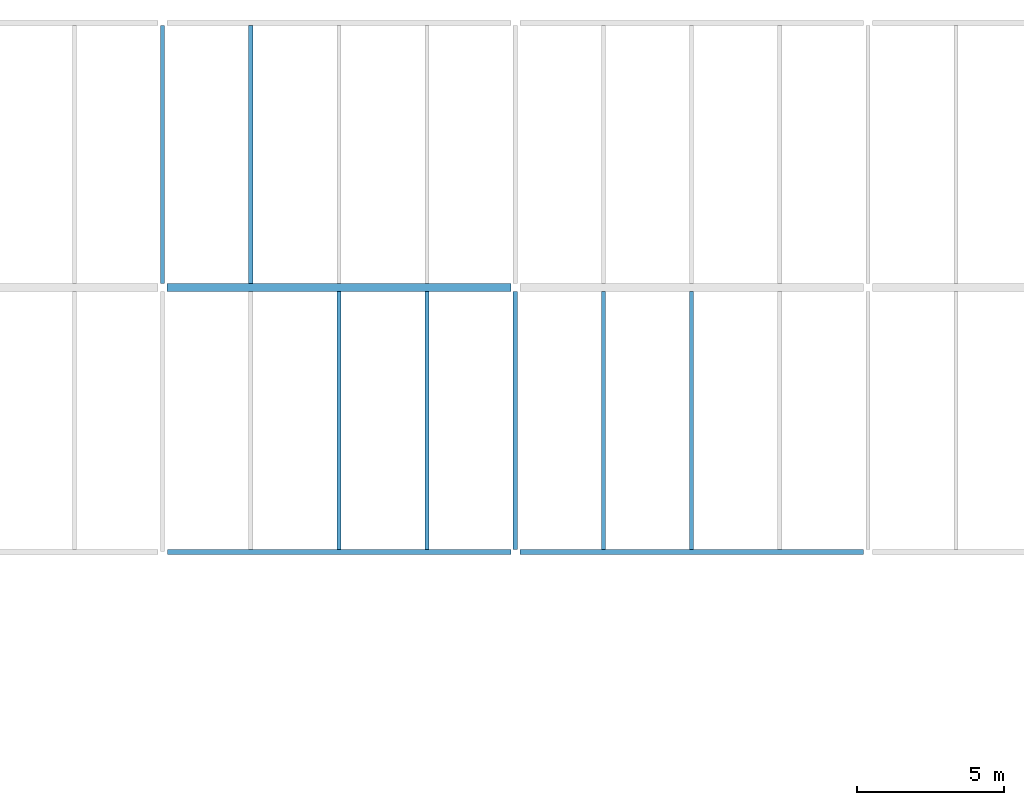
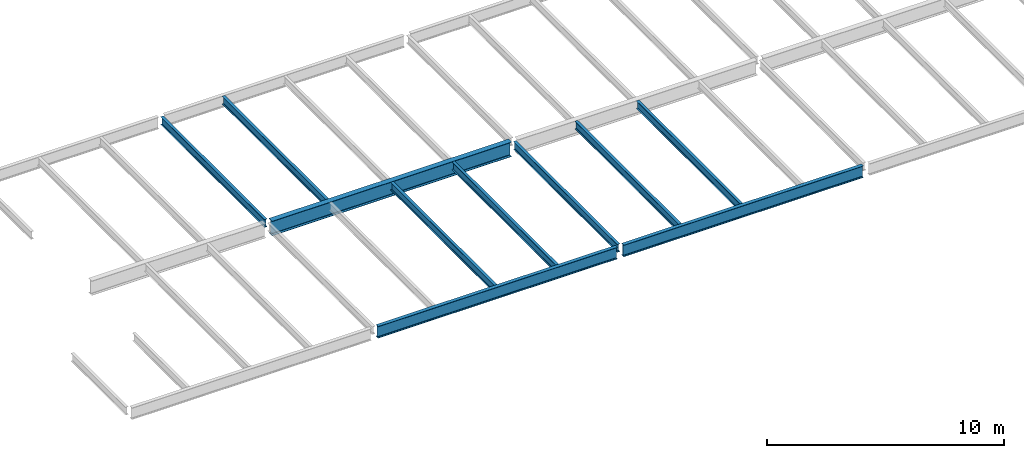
# One storey, part 3 of 21: 10 beams.
"""IFC2X3 building model written with IfcOpenShell, lengths in millimetres."""

from ifc_helpers import new_model, si_unit, origin, place, context, project, spatial, faceted_brep, material, element, save


model = new_model("IFC2X3")

# Units and contexts
context_of_model = context(None, 3, precision=1e-05, world=origin())
ifc_project = project(units=[si_unit("LENGTHUNIT", "METRE", prefix="MILLI")], contexts=[context_of_model])

# Building, storey
building = spatial("IfcBuilding", under=ifc_project, Name="Building", CompositionType="ELEMENT")
storey = spatial("IfcBuildingStorey", under=building, Name="FL6-FRM", CompositionType="ELEMENT")

# Beams
ifc_material_1 = material(Name="A992")
beam_1_placement = place(None, origin())
element("IfcBeam", 1, at=beam_1_placement, inside=storey, material=ifc_material_1, Name="Column436", context=context_of_model, shape_type="Brep", body=[
    faceted_brep([(-47846.0, 26867.5, 21620.0), (-47846.0, 27132.5, 21620.0), (-36154.0, 27132.5, 21620.0), (-36154.0, 26867.5, 21620.0), (-47846.0, 27132.5, 21637.0), (-36154.0, 27132.5, 21637.0), (-47846.0, 27023.1, 21637.0), (-36154.0, 27023.1, 21637.0), (-47846.0, 27018.8, 21637.6), (-36154.0, 27018.8, 21637.6), (-47846.0, 27014.8, 21639.2), (-36154.0, 27014.8, 21639.2), (-47846.0, 27011.4, 21641.8), (-36154.0, 27011.4, 21641.8), (-47846.0, 27008.8, 21645.2), (-36154.0, 27008.8, 21645.2), (-47846.0, 27007.2, 21649.2), (-36154.0, 27007.2, 21649.2), (-47846.0, 27006.6, 21653.5), (-36154.0, 27006.6, 21653.5), (-47846.0, 27006.6, 22339.5), (-36154.0, 27006.6, 22339.5), (-47846.0, 27007.2, 22343.8), (-36154.0, 27007.2, 22343.8), (-47846.0, 27008.8, 22347.8), (-36154.0, 27008.8, 22347.8), (-47846.0, 27011.4, 22351.2), (-36154.0, 27011.4, 22351.2), (-47846.0, 27014.8, 22353.8), (-36154.0, 27014.8, 22353.8), (-47846.0, 27018.8, 22355.4), (-36154.0, 27018.8, 22355.4), (-47846.0, 27023.1, 22356.0), (-36154.0, 27023.1, 22356.0), (-47846.0, 27132.5, 22356.0), (-36154.0, 27132.5, 22356.0), (-47846.0, 27132.5, 22373.0), (-36154.0, 27132.5, 22373.0), (-47846.0, 26867.5, 22373.0), (-36154.0, 26867.5, 22373.0), (-47846.0, 26867.5, 22356.0), (-36154.0, 26867.5, 22356.0), (-47846.0, 26976.9, 22356.0), (-36154.0, 26976.9, 22356.0), (-47846.0, 26981.2, 22355.4), (-36154.0, 26981.2, 22355.4), (-47846.0, 26985.2, 22353.8), (-36154.0, 26985.2, 22353.8), (-47846.0, 26988.6, 22351.2), (-36154.0, 26988.6, 22351.2), (-47846.0, 26991.2, 22347.8), (-36154.0, 26991.2, 22347.8), (-47846.0, 26992.8, 22343.8), (-36154.0, 26992.8, 22343.8), (-47846.0, 26993.4, 22339.5), (-36154.0, 26993.4, 22339.5), (-47846.0, 26993.4, 21653.5), (-36154.0, 26993.4, 21653.5), (-47846.0, 26992.8, 21649.2), (-36154.0, 26992.8, 21649.2), (-47846.0, 26991.2, 21645.3), (-36154.0, 26991.2, 21645.3), (-47846.0, 26988.6, 21641.8), (-36154.0, 26988.6, 21641.8), (-47846.0, 26985.2, 21639.2), (-36154.0, 26985.2, 21639.2), (-47846.0, 26981.2, 21637.6), (-36154.0, 26981.2, 21637.6), (-47846.0, 26976.9, 21637.0), (-36154.0, 26976.9, 21637.0), (-47846.0, 26867.5, 21637.0), (-36154.0, 26867.5, 21637.0)], [[[0, 1, 2, 3]], [[1, 4, 5, 2]], [[4, 6, 7, 5]], [[6, 8, 9, 7]], [[8, 10, 11, 9]], [[10, 12, 13, 11]], [[12, 14, 15, 13]], [[14, 16, 17, 15]], [[16, 18, 19, 17]], [[18, 20, 21, 19]], [[20, 22, 23, 21]], [[22, 24, 25, 23]], [[24, 26, 27, 25]], [[26, 28, 29, 27]], [[28, 30, 31, 29]], [[30, 32, 33, 31]], [[32, 34, 35, 33]], [[34, 36, 37, 35]], [[36, 38, 39, 37]], [[38, 40, 41, 39]], [[40, 42, 43, 41]], [[42, 44, 45, 43]], [[44, 46, 47, 45]], [[46, 48, 49, 47]], [[48, 50, 51, 49]], [[50, 52, 53, 51]], [[52, 54, 55, 53]], [[54, 56, 57, 55]], [[56, 58, 59, 57]], [[58, 60, 61, 59]], [[60, 62, 63, 61]], [[62, 64, 65, 63]], [[64, 66, 67, 65]], [[66, 68, 69, 67]], [[68, 70, 71, 69]], [[70, 0, 3, 71]], [[0, 70, 68, 66, 64, 62, 60, 58, 56, 54, 52, 50, 48, 46, 44, 42, 40, 38, 36, 34, 32, 30, 28, 26, 24, 22, 20, 18, 16, 14, 12, 10, 8, 6, 4, 1]], [[3, 2, 5, 7, 9, 11, 13, 15, 17, 19, 21, 23, 25, 27, 29, 31, 33, 35, 37, 39, 41, 43, 45, 47, 49, 51, 53, 55, 57, 59, 61, 63, 65, 67, 69, 71]]]),
])
ifc_material_2 = material(Name="A992")
beam_2_placement = place(None, origin())
element("IfcBeam", 2, at=beam_2_placement, inside=storey, material=ifc_material_2, Name="B353", context=context_of_model, shape_type="Brep", body=[
    faceted_brep([(-48070.0, 35910.5, 21970.0), (-47930.0, 35910.5, 21970.0), (-47930.0, 27132.5, 21970.0), (-48070.0, 27132.5, 21970.0), (-47930.0, 35910.5, 21981.2), (-47930.0, 27132.5, 21981.2), (-47986.3, 35910.5, 21981.2), (-47986.3, 27132.5, 21981.2), (-47988.9, 35910.5, 21981.5), (-47988.9, 27132.5, 21981.5), (-47991.4, 35910.5, 21982.6), (-47991.4, 27132.5, 21982.6), (-47993.5, 35910.5, 21984.2), (-47993.5, 27132.5, 21984.2), (-47995.1, 35910.5, 21986.3), (-47995.1, 27132.5, 21986.3), (-47996.2, 35910.5, 21988.8), (-47996.2, 27132.5, 21988.8), (-47996.5, 35910.5, 21991.4), (-47996.5, 27132.5, 21991.4), (-47996.5, 35910.5, 22351.6), (-47996.5, 27132.5, 22351.6), (-47996.2, 35910.5, 22354.2), (-47996.2, 27132.5, 22354.2), (-47995.1, 35910.5, 22356.7), (-47995.1, 27132.5, 22356.7), (-47993.5, 35910.5, 22358.8), (-47993.5, 27132.5, 22358.8), (-47991.4, 35910.5, 22360.4), (-47991.4, 27132.5, 22360.4), (-47988.9, 35910.5, 22361.5), (-47988.9, 27132.5, 22361.5), (-47986.3, 35910.5, 22361.8), (-47986.3, 27132.5, 22361.8), (-47930.0, 35910.5, 22361.8), (-47930.0, 27132.5, 22361.8), (-47930.0, 35910.5, 22373.0), (-47930.0, 27132.5, 22373.0), (-48070.0, 35910.5, 22373.0), (-48070.0, 27132.5, 22373.0), (-48070.0, 35910.5, 22361.8), (-48070.0, 27132.5, 22361.8), (-48013.7, 35910.5, 22361.8), (-48013.7, 27132.5, 22361.8), (-48011.1, 35910.5, 22361.5), (-48011.1, 27132.5, 22361.5), (-48008.6, 35910.5, 22360.4), (-48008.6, 27132.5, 22360.4), (-48006.5, 35910.5, 22358.8), (-48006.5, 27132.5, 22358.8), (-48004.9, 35910.5, 22356.7), (-48004.9, 27132.5, 22356.7), (-48003.8, 35910.5, 22354.2), (-48003.8, 27132.5, 22354.2), (-48003.5, 35910.5, 22351.6), (-48003.5, 27132.5, 22351.6), (-48003.5, 35910.5, 21991.4), (-48003.5, 27132.5, 21991.4), (-48003.8, 35910.5, 21988.8), (-48003.8, 27132.5, 21988.8), (-48004.9, 35910.5, 21986.3), (-48004.9, 27132.5, 21986.3), (-48006.5, 35910.5, 21984.2), (-48006.5, 27132.5, 21984.2), (-48008.6, 35910.5, 21982.6), (-48008.6, 27132.5, 21982.6), (-48011.1, 35910.5, 21981.5), (-48011.1, 27132.5, 21981.5), (-48013.7, 35910.5, 21981.2), (-48013.7, 27132.5, 21981.2), (-48070.0, 35910.5, 21981.2), (-48070.0, 27132.5, 21981.2)], [[[0, 1, 2, 3]], [[1, 4, 5, 2]], [[4, 6, 7, 5]], [[6, 8, 9, 7]], [[8, 10, 11, 9]], [[10, 12, 13, 11]], [[12, 14, 15, 13]], [[14, 16, 17, 15]], [[16, 18, 19, 17]], [[18, 20, 21, 19]], [[20, 22, 23, 21]], [[22, 24, 25, 23]], [[24, 26, 27, 25]], [[26, 28, 29, 27]], [[28, 30, 31, 29]], [[30, 32, 33, 31]], [[32, 34, 35, 33]], [[34, 36, 37, 35]], [[36, 38, 39, 37]], [[38, 40, 41, 39]], [[40, 42, 43, 41]], [[42, 44, 45, 43]], [[44, 46, 47, 45]], [[46, 48, 49, 47]], [[48, 50, 51, 49]], [[50, 52, 53, 51]], [[52, 54, 55, 53]], [[54, 56, 57, 55]], [[56, 58, 59, 57]], [[58, 60, 61, 59]], [[60, 62, 63, 61]], [[62, 64, 65, 63]], [[64, 66, 67, 65]], [[66, 68, 69, 67]], [[68, 70, 71, 69]], [[70, 0, 3, 71]], [[0, 70, 68, 66, 64, 62, 60, 58, 56, 54, 52, 50, 48, 46, 44, 42, 40, 38, 36, 34, 32, 30, 28, 26, 24, 22, 20, 18, 16, 14, 12, 10, 8, 6, 4, 1]], [[3, 2, 5, 7, 9, 11, 13, 15, 17, 19, 21, 23, 25, 27, 29, 31, 33, 35, 37, 39, 41, 43, 45, 47, 49, 51, 53, 55, 57, 59, 61, 63, 65, 67, 69, 71]]]),
])
ifc_material_3 = material(Name="A992")
beam_3_placement = place(None, origin())
element("IfcBeam", 3, at=beam_3_placement, inside=storey, material=ifc_material_3, Name="B354", context=context_of_model, shape_type="Brep", body=[
    faceted_brep([(-45070.0, 35910.5, 21970.0), (-44930.0, 35910.5, 21970.0), (-44930.0, 27132.5, 21970.0), (-45070.0, 27132.5, 21970.0), (-44930.0, 35910.5, 21981.2), (-44930.0, 27132.5, 21981.2), (-44986.3, 35910.5, 21981.2), (-44986.3, 27132.5, 21981.2), (-44988.9, 35910.5, 21981.5), (-44988.9, 27132.5, 21981.5), (-44991.4, 35910.5, 21982.6), (-44991.4, 27132.5, 21982.6), (-44993.5, 35910.5, 21984.2), (-44993.5, 27132.5, 21984.2), (-44995.1, 35910.5, 21986.3), (-44995.1, 27132.5, 21986.3), (-44996.2, 35910.5, 21988.8), (-44996.2, 27132.5, 21988.8), (-44996.5, 35910.5, 21991.4), (-44996.5, 27132.5, 21991.4), (-44996.5, 35910.5, 22351.6), (-44996.5, 27132.5, 22351.6), (-44996.2, 35910.5, 22354.2), (-44996.2, 27132.5, 22354.2), (-44995.1, 35910.5, 22356.7), (-44995.1, 27132.5, 22356.7), (-44993.5, 35910.5, 22358.8), (-44993.5, 27132.5, 22358.8), (-44991.4, 35910.5, 22360.4), (-44991.4, 27132.5, 22360.4), (-44988.9, 35910.5, 22361.5), (-44988.9, 27132.5, 22361.5), (-44986.3, 35910.5, 22361.8), (-44986.3, 27132.5, 22361.8), (-44930.0, 35910.5, 22361.8), (-44930.0, 27132.5, 22361.8), (-44930.0, 35910.5, 22373.0), (-44930.0, 27132.5, 22373.0), (-45070.0, 35910.5, 22373.0), (-45070.0, 27132.5, 22373.0), (-45070.0, 35910.5, 22361.8), (-45070.0, 27132.5, 22361.8), (-45013.7, 35910.5, 22361.8), (-45013.7, 27132.5, 22361.8), (-45011.1, 35910.5, 22361.5), (-45011.1, 27132.5, 22361.5), (-45008.6, 35910.5, 22360.4), (-45008.6, 27132.5, 22360.4), (-45006.5, 35910.5, 22358.8), (-45006.5, 27132.5, 22358.8), (-45004.9, 35910.5, 22356.7), (-45004.9, 27132.5, 22356.7), (-45003.8, 35910.5, 22354.2), (-45003.8, 27132.5, 22354.2), (-45003.5, 35910.5, 22351.6), (-45003.5, 27132.5, 22351.6), (-45003.5, 35910.5, 21991.4), (-45003.5, 27132.5, 21991.4), (-45003.8, 35910.5, 21988.8), (-45003.8, 27132.5, 21988.8), (-45004.9, 35910.5, 21986.3), (-45004.9, 27132.5, 21986.3), (-45006.5, 35910.5, 21984.2), (-45006.5, 27132.5, 21984.2), (-45008.6, 35910.5, 21982.6), (-45008.6, 27132.5, 21982.6), (-45011.1, 35910.5, 21981.5), (-45011.1, 27132.5, 21981.5), (-45013.7, 35910.5, 21981.2), (-45013.7, 27132.5, 21981.2), (-45070.0, 35910.5, 21981.2), (-45070.0, 27132.5, 21981.2)], [[[0, 1, 2, 3]], [[1, 4, 5, 2]], [[4, 6, 7, 5]], [[6, 8, 9, 7]], [[8, 10, 11, 9]], [[10, 12, 13, 11]], [[12, 14, 15, 13]], [[14, 16, 17, 15]], [[16, 18, 19, 17]], [[18, 20, 21, 19]], [[20, 22, 23, 21]], [[22, 24, 25, 23]], [[24, 26, 27, 25]], [[26, 28, 29, 27]], [[28, 30, 31, 29]], [[30, 32, 33, 31]], [[32, 34, 35, 33]], [[34, 36, 37, 35]], [[36, 38, 39, 37]], [[38, 40, 41, 39]], [[40, 42, 43, 41]], [[42, 44, 45, 43]], [[44, 46, 47, 45]], [[46, 48, 49, 47]], [[48, 50, 51, 49]], [[50, 52, 53, 51]], [[52, 54, 55, 53]], [[54, 56, 57, 55]], [[56, 58, 59, 57]], [[58, 60, 61, 59]], [[60, 62, 63, 61]], [[62, 64, 65, 63]], [[64, 66, 67, 65]], [[66, 68, 69, 67]], [[68, 70, 71, 69]], [[70, 0, 3, 71]], [[0, 70, 68, 66, 64, 62, 60, 58, 56, 54, 52, 50, 48, 46, 44, 42, 40, 38, 36, 34, 32, 30, 28, 26, 24, 22, 20, 18, 16, 14, 12, 10, 8, 6, 4, 1]], [[3, 2, 5, 7, 9, 11, 13, 15, 17, 19, 21, 23, 25, 27, 29, 31, 33, 35, 37, 39, 41, 43, 45, 47, 49, 51, 53, 55, 57, 59, 61, 63, 65, 67, 69, 71]]]),
])
ifc_material_4 = material(Name="A992")
beam_4_placement = place(None, origin())
element("IfcBeam", 4, at=beam_4_placement, inside=storey, material=ifc_material_4, Name="Column447", context=context_of_model, shape_type="Brep", body=[
    faceted_brep([(-47837.0, 17910.5, 21770.0), (-47837.0, 18089.5, 21770.0), (-36153.0, 18089.5, 21770.0), (-36153.0, 17910.5, 21770.0), (-47837.0, 18089.5, 21785.0), (-36153.0, 18089.5, 21785.0), (-47837.0, 18020.6, 21785.0), (-36153.0, 18020.6, 21785.0), (-47837.0, 18016.7, 21785.5), (-36153.0, 18016.7, 21785.5), (-47837.0, 18013.0, 21787.0), (-36153.0, 18013.0, 21787.0), (-47837.0, 18009.9, 21789.5), (-36153.0, 18009.9, 21789.5), (-47837.0, 18007.5, 21792.6), (-36153.0, 18007.5, 21792.6), (-47837.0, 18006.0, 21796.3), (-36153.0, 18006.0, 21796.3), (-47837.0, 18005.4, 21800.2), (-36153.0, 18005.4, 21800.2), (-47837.0, 18005.4, 22342.8), (-36153.0, 18005.4, 22342.8), (-47837.0, 18006.0, 22346.7), (-36153.0, 18006.0, 22346.7), (-47837.0, 18007.5, 22350.4), (-36153.0, 18007.5, 22350.4), (-47837.0, 18009.9, 22353.5), (-36153.0, 18009.9, 22353.5), (-47837.0, 18013.0, 22356.0), (-36153.0, 18013.0, 22356.0), (-47837.0, 18016.7, 22357.5), (-36153.0, 18016.7, 22357.5), (-47837.0, 18020.6, 22358.0), (-36153.0, 18020.6, 22358.0), (-47837.0, 18089.5, 22358.0), (-36153.0, 18089.5, 22358.0), (-47837.0, 18089.5, 22373.0), (-36153.0, 18089.5, 22373.0), (-47837.0, 17910.5, 22373.0), (-36153.0, 17910.5, 22373.0), (-47837.0, 17910.5, 22358.0), (-36153.0, 17910.5, 22358.0), (-47837.0, 17979.4, 22358.0), (-36153.0, 17979.4, 22358.0), (-47837.0, 17983.3, 22357.5), (-36153.0, 17983.3, 22357.5), (-47837.0, 17987.0, 22356.0), (-36153.0, 17987.0, 22356.0), (-47837.0, 17990.1, 22353.5), (-36153.0, 17990.1, 22353.5), (-47837.0, 17992.5, 22350.4), (-36153.0, 17992.5, 22350.4), (-47837.0, 17994.0, 22346.7), (-36153.0, 17994.0, 22346.7), (-47837.0, 17994.6, 22342.8), (-36153.0, 17994.6, 22342.8), (-47837.0, 17994.6, 21800.2), (-36153.0, 17994.6, 21800.2), (-47837.0, 17994.0, 21796.3), (-36153.0, 17994.0, 21796.3), (-47837.0, 17992.5, 21792.6), (-36153.0, 17992.5, 21792.6), (-47837.0, 17990.1, 21789.5), (-36153.0, 17990.1, 21789.5), (-47837.0, 17987.0, 21787.0), (-36153.0, 17987.0, 21787.0), (-47837.0, 17983.3, 21785.5), (-36153.0, 17983.3, 21785.5), (-47837.0, 17979.4, 21785.0), (-36153.0, 17979.4, 21785.0), (-47837.0, 17910.5, 21785.0), (-36153.0, 17910.5, 21785.0)], [[[0, 1, 2, 3]], [[1, 4, 5, 2]], [[4, 6, 7, 5]], [[6, 8, 9, 7]], [[8, 10, 11, 9]], [[10, 12, 13, 11]], [[12, 14, 15, 13]], [[14, 16, 17, 15]], [[16, 18, 19, 17]], [[18, 20, 21, 19]], [[20, 22, 23, 21]], [[22, 24, 25, 23]], [[24, 26, 27, 25]], [[26, 28, 29, 27]], [[28, 30, 31, 29]], [[30, 32, 33, 31]], [[32, 34, 35, 33]], [[34, 36, 37, 35]], [[36, 38, 39, 37]], [[38, 40, 41, 39]], [[40, 42, 43, 41]], [[42, 44, 45, 43]], [[44, 46, 47, 45]], [[46, 48, 49, 47]], [[48, 50, 51, 49]], [[50, 52, 53, 51]], [[52, 54, 55, 53]], [[54, 56, 57, 55]], [[56, 58, 59, 57]], [[58, 60, 61, 59]], [[60, 62, 63, 61]], [[62, 64, 65, 63]], [[64, 66, 67, 65]], [[66, 68, 69, 67]], [[68, 70, 71, 69]], [[70, 0, 3, 71]], [[0, 70, 68, 66, 64, 62, 60, 58, 56, 54, 52, 50, 48, 46, 44, 42, 40, 38, 36, 34, 32, 30, 28, 26, 24, 22, 20, 18, 16, 14, 12, 10, 8, 6, 4, 1]], [[3, 2, 5, 7, 9, 11, 13, 15, 17, 19, 21, 23, 25, 27, 29, 31, 33, 35, 37, 39, 41, 43, 45, 47, 49, 51, 53, 55, 57, 59, 61, 63, 65, 67, 69, 71]]]),
])
ifc_material_5 = material(Name="A992")
beam_5_placement = place(None, origin())
element("IfcBeam", 5, at=beam_5_placement, inside=storey, material=ifc_material_5, Name="Column448", context=context_of_model, shape_type="Brep", body=[
    faceted_brep([(-35847.0, 17910.5, 21770.0), (-35847.0, 18089.5, 21770.0), (-24153.0, 18089.5, 21770.0), (-24153.0, 17910.5, 21770.0), (-35847.0, 18089.5, 21785.0), (-24153.0, 18089.5, 21785.0), (-35847.0, 18020.6, 21785.0), (-24153.0, 18020.6, 21785.0), (-35847.0, 18016.7, 21785.5), (-24153.0, 18016.7, 21785.5), (-35847.0, 18013.0, 21787.0), (-24153.0, 18013.0, 21787.0), (-35847.0, 18009.9, 21789.5), (-24153.0, 18009.9, 21789.5), (-35847.0, 18007.5, 21792.6), (-24153.0, 18007.5, 21792.6), (-35847.0, 18006.0, 21796.3), (-24153.0, 18006.0, 21796.3), (-35847.0, 18005.4, 21800.2), (-24153.0, 18005.4, 21800.2), (-35847.0, 18005.4, 22342.8), (-24153.0, 18005.4, 22342.8), (-35847.0, 18006.0, 22346.7), (-24153.0, 18006.0, 22346.7), (-35847.0, 18007.5, 22350.4), (-24153.0, 18007.5, 22350.4), (-35847.0, 18009.9, 22353.5), (-24153.0, 18009.9, 22353.5), (-35847.0, 18013.0, 22356.0), (-24153.0, 18013.0, 22356.0), (-35847.0, 18016.7, 22357.5), (-24153.0, 18016.7, 22357.5), (-35847.0, 18020.6, 22358.0), (-24153.0, 18020.6, 22358.0), (-35847.0, 18089.5, 22358.0), (-24153.0, 18089.5, 22358.0), (-35847.0, 18089.5, 22373.0), (-24153.0, 18089.5, 22373.0), (-35847.0, 17910.5, 22373.0), (-24153.0, 17910.5, 22373.0), (-35847.0, 17910.5, 22358.0), (-24153.0, 17910.5, 22358.0), (-35847.0, 17979.4, 22358.0), (-24153.0, 17979.4, 22358.0), (-35847.0, 17983.3, 22357.5), (-24153.0, 17983.3, 22357.5), (-35847.0, 17987.0, 22356.0), (-24153.0, 17987.0, 22356.0), (-35847.0, 17990.1, 22353.5), (-24153.0, 17990.1, 22353.5), (-35847.0, 17992.5, 22350.4), (-24153.0, 17992.5, 22350.4), (-35847.0, 17994.0, 22346.7), (-24153.0, 17994.0, 22346.7), (-35847.0, 17994.6, 22342.8), (-24153.0, 17994.6, 22342.8), (-35847.0, 17994.6, 21800.2), (-24153.0, 17994.6, 21800.2), (-35847.0, 17994.0, 21796.3), (-24153.0, 17994.0, 21796.3), (-35847.0, 17992.5, 21792.6), (-24153.0, 17992.5, 21792.6), (-35847.0, 17990.1, 21789.5), (-24153.0, 17990.1, 21789.5), (-35847.0, 17987.0, 21787.0), (-24153.0, 17987.0, 21787.0), (-35847.0, 17983.3, 21785.5), (-24153.0, 17983.3, 21785.5), (-35847.0, 17979.4, 21785.0), (-24153.0, 17979.4, 21785.0), (-35847.0, 17910.5, 21785.0), (-24153.0, 17910.5, 21785.0)], [[[0, 1, 2, 3]], [[1, 4, 5, 2]], [[4, 6, 7, 5]], [[6, 8, 9, 7]], [[8, 10, 11, 9]], [[10, 12, 13, 11]], [[12, 14, 15, 13]], [[14, 16, 17, 15]], [[16, 18, 19, 17]], [[18, 20, 21, 19]], [[20, 22, 23, 21]], [[22, 24, 25, 23]], [[24, 26, 27, 25]], [[26, 28, 29, 27]], [[28, 30, 31, 29]], [[30, 32, 33, 31]], [[32, 34, 35, 33]], [[34, 36, 37, 35]], [[36, 38, 39, 37]], [[38, 40, 41, 39]], [[40, 42, 43, 41]], [[42, 44, 45, 43]], [[44, 46, 47, 45]], [[46, 48, 49, 47]], [[48, 50, 51, 49]], [[50, 52, 53, 51]], [[52, 54, 55, 53]], [[54, 56, 57, 55]], [[56, 58, 59, 57]], [[58, 60, 61, 59]], [[60, 62, 63, 61]], [[62, 64, 65, 63]], [[64, 66, 67, 65]], [[66, 68, 69, 67]], [[68, 70, 71, 69]], [[70, 0, 3, 71]], [[0, 70, 68, 66, 64, 62, 60, 58, 56, 54, 52, 50, 48, 46, 44, 42, 40, 38, 36, 34, 32, 30, 28, 26, 24, 22, 20, 18, 16, 14, 12, 10, 8, 6, 4, 1]], [[3, 2, 5, 7, 9, 11, 13, 15, 17, 19, 21, 23, 25, 27, 29, 31, 33, 35, 37, 39, 41, 43, 45, 47, 49, 51, 53, 55, 57, 59, 61, 63, 65, 67, 69, 71]]]),
])
ifc_material_6 = material(Name="A992")
beam_6_placement = place(None, origin())
element("IfcBeam", 6, at=beam_6_placement, inside=storey, material=ifc_material_6, Name="B388", context=context_of_model, shape_type="Brep", body=[
    faceted_brep([(-41930.0, 18089.5, 21970.0), (-42070.0, 18089.5, 21970.0), (-42070.0, 26867.5, 21970.0), (-41930.0, 26867.5, 21970.0), (-42070.0, 18089.5, 21981.2), (-42070.0, 26867.5, 21981.2), (-42013.7, 18089.5, 21981.2), (-42013.7, 26867.5, 21981.2), (-42011.1, 18089.5, 21981.5), (-42011.1, 26867.5, 21981.5), (-42008.6, 18089.5, 21982.6), (-42008.6, 26867.5, 21982.6), (-42006.5, 18089.5, 21984.2), (-42006.5, 26867.5, 21984.2), (-42004.9, 18089.5, 21986.3), (-42004.9, 26867.5, 21986.3), (-42003.8, 18089.5, 21988.8), (-42003.8, 26867.5, 21988.8), (-42003.5, 18089.5, 21991.4), (-42003.5, 26867.5, 21991.4), (-42003.5, 18089.5, 22351.6), (-42003.5, 26867.5, 22351.6), (-42003.8, 18089.5, 22354.2), (-42003.8, 26867.5, 22354.2), (-42004.9, 18089.5, 22356.7), (-42004.9, 26867.5, 22356.7), (-42006.5, 18089.5, 22358.8), (-42006.5, 26867.5, 22358.8), (-42008.6, 18089.5, 22360.4), (-42008.6, 26867.5, 22360.4), (-42011.1, 18089.5, 22361.5), (-42011.1, 26867.5, 22361.5), (-42013.7, 18089.5, 22361.8), (-42013.7, 26867.5, 22361.8), (-42070.0, 18089.5, 22361.8), (-42070.0, 26867.5, 22361.8), (-42070.0, 18089.5, 22373.0), (-42070.0, 26867.5, 22373.0), (-41930.0, 18089.5, 22373.0), (-41930.0, 26867.5, 22373.0), (-41930.0, 18089.5, 22361.8), (-41930.0, 26867.5, 22361.8), (-41986.3, 18089.5, 22361.8), (-41986.3, 26867.5, 22361.8), (-41988.9, 18089.5, 22361.5), (-41988.9, 26867.5, 22361.5), (-41991.4, 18089.5, 22360.4), (-41991.4, 26867.5, 22360.4), (-41993.5, 18089.5, 22358.8), (-41993.5, 26867.5, 22358.8), (-41995.1, 18089.5, 22356.7), (-41995.1, 26867.5, 22356.7), (-41996.2, 18089.5, 22354.2), (-41996.2, 26867.5, 22354.2), (-41996.5, 18089.5, 22351.6), (-41996.5, 26867.5, 22351.6), (-41996.5, 18089.5, 21991.4), (-41996.5, 26867.5, 21991.4), (-41996.2, 18089.5, 21988.8), (-41996.2, 26867.5, 21988.8), (-41995.1, 18089.5, 21986.3), (-41995.1, 26867.5, 21986.3), (-41993.5, 18089.5, 21984.2), (-41993.5, 26867.5, 21984.2), (-41991.4, 18089.5, 21982.6), (-41991.4, 26867.5, 21982.6), (-41988.9, 18089.5, 21981.5), (-41988.9, 26867.5, 21981.5), (-41986.3, 18089.5, 21981.2), (-41986.3, 26867.5, 21981.2), (-41930.0, 18089.5, 21981.2), (-41930.0, 26867.5, 21981.2)], [[[0, 1, 2, 3]], [[1, 4, 5, 2]], [[4, 6, 7, 5]], [[6, 8, 9, 7]], [[8, 10, 11, 9]], [[10, 12, 13, 11]], [[12, 14, 15, 13]], [[14, 16, 17, 15]], [[16, 18, 19, 17]], [[18, 20, 21, 19]], [[20, 22, 23, 21]], [[22, 24, 25, 23]], [[24, 26, 27, 25]], [[26, 28, 29, 27]], [[28, 30, 31, 29]], [[30, 32, 33, 31]], [[32, 34, 35, 33]], [[34, 36, 37, 35]], [[36, 38, 39, 37]], [[38, 40, 41, 39]], [[40, 42, 43, 41]], [[42, 44, 45, 43]], [[44, 46, 47, 45]], [[46, 48, 49, 47]], [[48, 50, 51, 49]], [[50, 52, 53, 51]], [[52, 54, 55, 53]], [[54, 56, 57, 55]], [[56, 58, 59, 57]], [[58, 60, 61, 59]], [[60, 62, 63, 61]], [[62, 64, 65, 63]], [[64, 66, 67, 65]], [[66, 68, 69, 67]], [[68, 70, 71, 69]], [[70, 0, 3, 71]], [[0, 70, 68, 66, 64, 62, 60, 58, 56, 54, 52, 50, 48, 46, 44, 42, 40, 38, 36, 34, 32, 30, 28, 26, 24, 22, 20, 18, 16, 14, 12, 10, 8, 6, 4, 1]], [[3, 2, 5, 7, 9, 11, 13, 15, 17, 19, 21, 23, 25, 27, 29, 31, 33, 35, 37, 39, 41, 43, 45, 47, 49, 51, 53, 55, 57, 59, 61, 63, 65, 67, 69, 71]]]),
])
ifc_material_7 = material(Name="A992")
beam_7_placement = place(None, origin())
element("IfcBeam", 7, at=beam_7_placement, inside=storey, material=ifc_material_7, Name="B389", context=context_of_model, shape_type="Brep", body=[
    faceted_brep([(-38930.0, 18089.5, 21970.0), (-39070.0, 18089.5, 21970.0), (-39070.0, 26867.5, 21970.0), (-38930.0, 26867.5, 21970.0), (-39070.0, 18089.5, 21981.2), (-39070.0, 26867.5, 21981.2), (-39013.7, 18089.5, 21981.2), (-39013.7, 26867.5, 21981.2), (-39011.1, 18089.5, 21981.5), (-39011.1, 26867.5, 21981.5), (-39008.6, 18089.5, 21982.6), (-39008.6, 26867.5, 21982.6), (-39006.5, 18089.5, 21984.2), (-39006.5, 26867.5, 21984.2), (-39004.9, 18089.5, 21986.3), (-39004.9, 26867.5, 21986.3), (-39003.8, 18089.5, 21988.8), (-39003.8, 26867.5, 21988.8), (-39003.5, 18089.5, 21991.4), (-39003.5, 26867.5, 21991.4), (-39003.5, 18089.5, 22351.6), (-39003.5, 26867.5, 22351.6), (-39003.8, 18089.5, 22354.2), (-39003.8, 26867.5, 22354.2), (-39004.9, 18089.5, 22356.7), (-39004.9, 26867.5, 22356.7), (-39006.5, 18089.5, 22358.8), (-39006.5, 26867.5, 22358.8), (-39008.6, 18089.5, 22360.4), (-39008.6, 26867.5, 22360.4), (-39011.1, 18089.5, 22361.5), (-39011.1, 26867.5, 22361.5), (-39013.7, 18089.5, 22361.8), (-39013.7, 26867.5, 22361.8), (-39070.0, 18089.5, 22361.8), (-39070.0, 26867.5, 22361.8), (-39070.0, 18089.5, 22373.0), (-39070.0, 26867.5, 22373.0), (-38930.0, 18089.5, 22373.0), (-38930.0, 26867.5, 22373.0), (-38930.0, 18089.5, 22361.8), (-38930.0, 26867.5, 22361.8), (-38986.3, 18089.5, 22361.8), (-38986.3, 26867.5, 22361.8), (-38988.9, 18089.5, 22361.5), (-38988.9, 26867.5, 22361.5), (-38991.4, 18089.5, 22360.4), (-38991.4, 26867.5, 22360.4), (-38993.5, 18089.5, 22358.8), (-38993.5, 26867.5, 22358.8), (-38995.1, 18089.5, 22356.7), (-38995.1, 26867.5, 22356.7), (-38996.2, 18089.5, 22354.2), (-38996.2, 26867.5, 22354.2), (-38996.5, 18089.5, 22351.6), (-38996.5, 26867.5, 22351.6), (-38996.5, 18089.5, 21991.4), (-38996.5, 26867.5, 21991.4), (-38996.2, 18089.5, 21988.8), (-38996.2, 26867.5, 21988.8), (-38995.1, 18089.5, 21986.3), (-38995.1, 26867.5, 21986.3), (-38993.5, 18089.5, 21984.2), (-38993.5, 26867.5, 21984.2), (-38991.4, 18089.5, 21982.6), (-38991.4, 26867.5, 21982.6), (-38988.9, 18089.5, 21981.5), (-38988.9, 26867.5, 21981.5), (-38986.3, 18089.5, 21981.2), (-38986.3, 26867.5, 21981.2), (-38930.0, 18089.5, 21981.2), (-38930.0, 26867.5, 21981.2)], [[[0, 1, 2, 3]], [[1, 4, 5, 2]], [[4, 6, 7, 5]], [[6, 8, 9, 7]], [[8, 10, 11, 9]], [[10, 12, 13, 11]], [[12, 14, 15, 13]], [[14, 16, 17, 15]], [[16, 18, 19, 17]], [[18, 20, 21, 19]], [[20, 22, 23, 21]], [[22, 24, 25, 23]], [[24, 26, 27, 25]], [[26, 28, 29, 27]], [[28, 30, 31, 29]], [[30, 32, 33, 31]], [[32, 34, 35, 33]], [[34, 36, 37, 35]], [[36, 38, 39, 37]], [[38, 40, 41, 39]], [[40, 42, 43, 41]], [[42, 44, 45, 43]], [[44, 46, 47, 45]], [[46, 48, 49, 47]], [[48, 50, 51, 49]], [[50, 52, 53, 51]], [[52, 54, 55, 53]], [[54, 56, 57, 55]], [[56, 58, 59, 57]], [[58, 60, 61, 59]], [[60, 62, 63, 61]], [[62, 64, 65, 63]], [[64, 66, 67, 65]], [[66, 68, 69, 67]], [[68, 70, 71, 69]], [[70, 0, 3, 71]], [[0, 70, 68, 66, 64, 62, 60, 58, 56, 54, 52, 50, 48, 46, 44, 42, 40, 38, 36, 34, 32, 30, 28, 26, 24, 22, 20, 18, 16, 14, 12, 10, 8, 6, 4, 1]], [[3, 2, 5, 7, 9, 11, 13, 15, 17, 19, 21, 23, 25, 27, 29, 31, 33, 35, 37, 39, 41, 43, 45, 47, 49, 51, 53, 55, 57, 59, 61, 63, 65, 67, 69, 71]]]),
])
ifc_material_8 = material(Name="A992")
beam_8_placement = place(None, origin())
element("IfcBeam", 8, at=beam_8_placement, inside=storey, material=ifc_material_8, Name="B390", context=context_of_model, shape_type="Brep", body=[
    faceted_brep([(-35930.0, 18089.5, 21970.0), (-36070.0, 18089.5, 21970.0), (-36070.0, 26867.5, 21970.0), (-35930.0, 26867.5, 21970.0), (-36070.0, 18089.5, 21981.2), (-36070.0, 26867.5, 21981.2), (-36013.7, 18089.5, 21981.2), (-36013.7, 26867.5, 21981.2), (-36011.1, 18089.5, 21981.5), (-36011.1, 26867.5, 21981.5), (-36008.6, 18089.5, 21982.6), (-36008.6, 26867.5, 21982.6), (-36006.5, 18089.5, 21984.2), (-36006.5, 26867.5, 21984.2), (-36004.9, 18089.5, 21986.3), (-36004.9, 26867.5, 21986.3), (-36003.8, 18089.5, 21988.8), (-36003.8, 26867.5, 21988.8), (-36003.5, 18089.5, 21991.4), (-36003.5, 26867.5, 21991.4), (-36003.5, 18089.5, 22351.6), (-36003.5, 26867.5, 22351.6), (-36003.8, 18089.5, 22354.2), (-36003.8, 26867.5, 22354.2), (-36004.9, 18089.5, 22356.7), (-36004.9, 26867.5, 22356.7), (-36006.5, 18089.5, 22358.8), (-36006.5, 26867.5, 22358.8), (-36008.6, 18089.5, 22360.4), (-36008.6, 26867.5, 22360.4), (-36011.1, 18089.5, 22361.5), (-36011.1, 26867.5, 22361.5), (-36013.7, 18089.5, 22361.8), (-36013.7, 26867.5, 22361.8), (-36070.0, 18089.5, 22361.8), (-36070.0, 26867.5, 22361.8), (-36070.0, 18089.5, 22373.0), (-36070.0, 26867.5, 22373.0), (-35930.0, 18089.5, 22373.0), (-35930.0, 26867.5, 22373.0), (-35930.0, 18089.5, 22361.8), (-35930.0, 26867.5, 22361.8), (-35986.3, 18089.5, 22361.8), (-35986.3, 26867.5, 22361.8), (-35988.9, 18089.5, 22361.5), (-35988.9, 26867.5, 22361.5), (-35991.4, 18089.5, 22360.4), (-35991.4, 26867.5, 22360.4), (-35993.5, 18089.5, 22358.8), (-35993.5, 26867.5, 22358.8), (-35995.1, 18089.5, 22356.7), (-35995.1, 26867.5, 22356.7), (-35996.2, 18089.5, 22354.2), (-35996.2, 26867.5, 22354.2), (-35996.5, 18089.5, 22351.6), (-35996.5, 26867.5, 22351.6), (-35996.5, 18089.5, 21991.4), (-35996.5, 26867.5, 21991.4), (-35996.2, 18089.5, 21988.8), (-35996.2, 26867.5, 21988.8), (-35995.1, 18089.5, 21986.3), (-35995.1, 26867.5, 21986.3), (-35993.5, 18089.5, 21984.2), (-35993.5, 26867.5, 21984.2), (-35991.4, 18089.5, 21982.6), (-35991.4, 26867.5, 21982.6), (-35988.9, 18089.5, 21981.5), (-35988.9, 26867.5, 21981.5), (-35986.3, 18089.5, 21981.2), (-35986.3, 26867.5, 21981.2), (-35930.0, 18089.5, 21981.2), (-35930.0, 26867.5, 21981.2)], [[[0, 1, 2, 3]], [[1, 4, 5, 2]], [[4, 6, 7, 5]], [[6, 8, 9, 7]], [[8, 10, 11, 9]], [[10, 12, 13, 11]], [[12, 14, 15, 13]], [[14, 16, 17, 15]], [[16, 18, 19, 17]], [[18, 20, 21, 19]], [[20, 22, 23, 21]], [[22, 24, 25, 23]], [[24, 26, 27, 25]], [[26, 28, 29, 27]], [[28, 30, 31, 29]], [[30, 32, 33, 31]], [[32, 34, 35, 33]], [[34, 36, 37, 35]], [[36, 38, 39, 37]], [[38, 40, 41, 39]], [[40, 42, 43, 41]], [[42, 44, 45, 43]], [[44, 46, 47, 45]], [[46, 48, 49, 47]], [[48, 50, 51, 49]], [[50, 52, 53, 51]], [[52, 54, 55, 53]], [[54, 56, 57, 55]], [[56, 58, 59, 57]], [[58, 60, 61, 59]], [[60, 62, 63, 61]], [[62, 64, 65, 63]], [[64, 66, 67, 65]], [[66, 68, 69, 67]], [[68, 70, 71, 69]], [[70, 0, 3, 71]], [[0, 70, 68, 66, 64, 62, 60, 58, 56, 54, 52, 50, 48, 46, 44, 42, 40, 38, 36, 34, 32, 30, 28, 26, 24, 22, 20, 18, 16, 14, 12, 10, 8, 6, 4, 1]], [[3, 2, 5, 7, 9, 11, 13, 15, 17, 19, 21, 23, 25, 27, 29, 31, 33, 35, 37, 39, 41, 43, 45, 47, 49, 51, 53, 55, 57, 59, 61, 63, 65, 67, 69, 71]]]),
])
ifc_material_9 = material(Name="A992")
beam_9_placement = place(None, origin())
element("IfcBeam", 9, at=beam_9_placement, inside=storey, material=ifc_material_9, Name="B391", context=context_of_model, shape_type="Brep", body=[
    faceted_brep([(-32930.0, 18089.5, 21970.0), (-33070.0, 18089.5, 21970.0), (-33070.0, 26867.5, 21970.0), (-32930.0, 26867.5, 21970.0), (-33070.0, 18089.5, 21981.2), (-33070.0, 26867.5, 21981.2), (-33013.7, 18089.5, 21981.2), (-33013.7, 26867.5, 21981.2), (-33011.1, 18089.5, 21981.5), (-33011.1, 26867.5, 21981.5), (-33008.6, 18089.5, 21982.6), (-33008.6, 26867.5, 21982.6), (-33006.5, 18089.5, 21984.2), (-33006.5, 26867.5, 21984.2), (-33004.9, 18089.5, 21986.3), (-33004.9, 26867.5, 21986.3), (-33003.8, 18089.5, 21988.8), (-33003.8, 26867.5, 21988.8), (-33003.5, 18089.5, 21991.4), (-33003.5, 26867.5, 21991.4), (-33003.5, 18089.5, 22351.6), (-33003.5, 26867.5, 22351.6), (-33003.8, 18089.5, 22354.2), (-33003.8, 26867.5, 22354.2), (-33004.9, 18089.5, 22356.7), (-33004.9, 26867.5, 22356.7), (-33006.5, 18089.5, 22358.8), (-33006.5, 26867.5, 22358.8), (-33008.6, 18089.5, 22360.4), (-33008.6, 26867.5, 22360.4), (-33011.1, 18089.5, 22361.5), (-33011.1, 26867.5, 22361.5), (-33013.7, 18089.5, 22361.8), (-33013.7, 26867.5, 22361.8), (-33070.0, 18089.5, 22361.8), (-33070.0, 26867.5, 22361.8), (-33070.0, 18089.5, 22373.0), (-33070.0, 26867.5, 22373.0), (-32930.0, 18089.5, 22373.0), (-32930.0, 26867.5, 22373.0), (-32930.0, 18089.5, 22361.8), (-32930.0, 26867.5, 22361.8), (-32986.3, 18089.5, 22361.8), (-32986.3, 26867.5, 22361.8), (-32988.9, 18089.5, 22361.5), (-32988.9, 26867.5, 22361.5), (-32991.4, 18089.5, 22360.4), (-32991.4, 26867.5, 22360.4), (-32993.5, 18089.5, 22358.8), (-32993.5, 26867.5, 22358.8), (-32995.1, 18089.5, 22356.7), (-32995.1, 26867.5, 22356.7), (-32996.2, 18089.5, 22354.2), (-32996.2, 26867.5, 22354.2), (-32996.5, 18089.5, 22351.6), (-32996.5, 26867.5, 22351.6), (-32996.5, 18089.5, 21991.4), (-32996.5, 26867.5, 21991.4), (-32996.2, 18089.5, 21988.8), (-32996.2, 26867.5, 21988.8), (-32995.1, 18089.5, 21986.3), (-32995.1, 26867.5, 21986.3), (-32993.5, 18089.5, 21984.2), (-32993.5, 26867.5, 21984.2), (-32991.4, 18089.5, 21982.6), (-32991.4, 26867.5, 21982.6), (-32988.9, 18089.5, 21981.5), (-32988.9, 26867.5, 21981.5), (-32986.3, 18089.5, 21981.2), (-32986.3, 26867.5, 21981.2), (-32930.0, 18089.5, 21981.2), (-32930.0, 26867.5, 21981.2)], [[[0, 1, 2, 3]], [[1, 4, 5, 2]], [[4, 6, 7, 5]], [[6, 8, 9, 7]], [[8, 10, 11, 9]], [[10, 12, 13, 11]], [[12, 14, 15, 13]], [[14, 16, 17, 15]], [[16, 18, 19, 17]], [[18, 20, 21, 19]], [[20, 22, 23, 21]], [[22, 24, 25, 23]], [[24, 26, 27, 25]], [[26, 28, 29, 27]], [[28, 30, 31, 29]], [[30, 32, 33, 31]], [[32, 34, 35, 33]], [[34, 36, 37, 35]], [[36, 38, 39, 37]], [[38, 40, 41, 39]], [[40, 42, 43, 41]], [[42, 44, 45, 43]], [[44, 46, 47, 45]], [[46, 48, 49, 47]], [[48, 50, 51, 49]], [[50, 52, 53, 51]], [[52, 54, 55, 53]], [[54, 56, 57, 55]], [[56, 58, 59, 57]], [[58, 60, 61, 59]], [[60, 62, 63, 61]], [[62, 64, 65, 63]], [[64, 66, 67, 65]], [[66, 68, 69, 67]], [[68, 70, 71, 69]], [[70, 0, 3, 71]], [[0, 70, 68, 66, 64, 62, 60, 58, 56, 54, 52, 50, 48, 46, 44, 42, 40, 38, 36, 34, 32, 30, 28, 26, 24, 22, 20, 18, 16, 14, 12, 10, 8, 6, 4, 1]], [[3, 2, 5, 7, 9, 11, 13, 15, 17, 19, 21, 23, 25, 27, 29, 31, 33, 35, 37, 39, 41, 43, 45, 47, 49, 51, 53, 55, 57, 59, 61, 63, 65, 67, 69, 71]]]),
])
ifc_material_10 = material(Name="A992")
beam_10_placement = place(None, origin())
element("IfcBeam", 10, at=beam_10_placement, inside=storey, material=ifc_material_10, Name="B392", context=context_of_model, shape_type="Brep", body=[
    faceted_brep([(-29930.0, 18089.5, 21970.0), (-30070.0, 18089.5, 21970.0), (-30070.0, 26867.5, 21970.0), (-29930.0, 26867.5, 21970.0), (-30070.0, 18089.5, 21981.2), (-30070.0, 26867.5, 21981.2), (-30013.7, 18089.5, 21981.2), (-30013.7, 26867.5, 21981.2), (-30011.1, 18089.5, 21981.5), (-30011.1, 26867.5, 21981.5), (-30008.6, 18089.5, 21982.6), (-30008.6, 26867.5, 21982.6), (-30006.5, 18089.5, 21984.2), (-30006.5, 26867.5, 21984.2), (-30004.9, 18089.5, 21986.3), (-30004.9, 26867.5, 21986.3), (-30003.8, 18089.5, 21988.8), (-30003.8, 26867.5, 21988.8), (-30003.5, 18089.5, 21991.4), (-30003.5, 26867.5, 21991.4), (-30003.5, 18089.5, 22351.6), (-30003.5, 26867.5, 22351.6), (-30003.8, 18089.5, 22354.2), (-30003.8, 26867.5, 22354.2), (-30004.9, 18089.5, 22356.7), (-30004.9, 26867.5, 22356.7), (-30006.5, 18089.5, 22358.8), (-30006.5, 26867.5, 22358.8), (-30008.6, 18089.5, 22360.4), (-30008.6, 26867.5, 22360.4), (-30011.1, 18089.5, 22361.5), (-30011.1, 26867.5, 22361.5), (-30013.7, 18089.5, 22361.8), (-30013.7, 26867.5, 22361.8), (-30070.0, 18089.5, 22361.8), (-30070.0, 26867.5, 22361.8), (-30070.0, 18089.5, 22373.0), (-30070.0, 26867.5, 22373.0), (-29930.0, 18089.5, 22373.0), (-29930.0, 26867.5, 22373.0), (-29930.0, 18089.5, 22361.8), (-29930.0, 26867.5, 22361.8), (-29986.3, 18089.5, 22361.8), (-29986.3, 26867.5, 22361.8), (-29988.9, 18089.5, 22361.5), (-29988.9, 26867.5, 22361.5), (-29991.4, 18089.5, 22360.4), (-29991.4, 26867.5, 22360.4), (-29993.5, 18089.5, 22358.8), (-29993.5, 26867.5, 22358.8), (-29995.1, 18089.5, 22356.7), (-29995.1, 26867.5, 22356.7), (-29996.2, 18089.5, 22354.2), (-29996.2, 26867.5, 22354.2), (-29996.5, 18089.5, 22351.6), (-29996.5, 26867.5, 22351.6), (-29996.5, 18089.5, 21991.4), (-29996.5, 26867.5, 21991.4), (-29996.2, 18089.5, 21988.8), (-29996.2, 26867.5, 21988.8), (-29995.1, 18089.5, 21986.3), (-29995.1, 26867.5, 21986.3), (-29993.5, 18089.5, 21984.2), (-29993.5, 26867.5, 21984.2), (-29991.4, 18089.5, 21982.6), (-29991.4, 26867.5, 21982.6), (-29988.9, 18089.5, 21981.5), (-29988.9, 26867.5, 21981.5), (-29986.3, 18089.5, 21981.2), (-29986.3, 26867.5, 21981.2), (-29930.0, 18089.5, 21981.2), (-29930.0, 26867.5, 21981.2)], [[[0, 1, 2, 3]], [[1, 4, 5, 2]], [[4, 6, 7, 5]], [[6, 8, 9, 7]], [[8, 10, 11, 9]], [[10, 12, 13, 11]], [[12, 14, 15, 13]], [[14, 16, 17, 15]], [[16, 18, 19, 17]], [[18, 20, 21, 19]], [[20, 22, 23, 21]], [[22, 24, 25, 23]], [[24, 26, 27, 25]], [[26, 28, 29, 27]], [[28, 30, 31, 29]], [[30, 32, 33, 31]], [[32, 34, 35, 33]], [[34, 36, 37, 35]], [[36, 38, 39, 37]], [[38, 40, 41, 39]], [[40, 42, 43, 41]], [[42, 44, 45, 43]], [[44, 46, 47, 45]], [[46, 48, 49, 47]], [[48, 50, 51, 49]], [[50, 52, 53, 51]], [[52, 54, 55, 53]], [[54, 56, 57, 55]], [[56, 58, 59, 57]], [[58, 60, 61, 59]], [[60, 62, 63, 61]], [[62, 64, 65, 63]], [[64, 66, 67, 65]], [[66, 68, 69, 67]], [[68, 70, 71, 69]], [[70, 0, 3, 71]], [[0, 70, 68, 66, 64, 62, 60, 58, 56, 54, 52, 50, 48, 46, 44, 42, 40, 38, 36, 34, 32, 30, 28, 26, 24, 22, 20, 18, 16, 14, 12, 10, 8, 6, 4, 1]], [[3, 2, 5, 7, 9, 11, 13, 15, 17, 19, 21, 23, 25, 27, 29, 31, 33, 35, 37, 39, 41, 43, 45, 47, 49, 51, 53, 55, 57, 59, 61, 63, 65, 67, 69, 71]]]),
])

save(model, "model.ifc")
